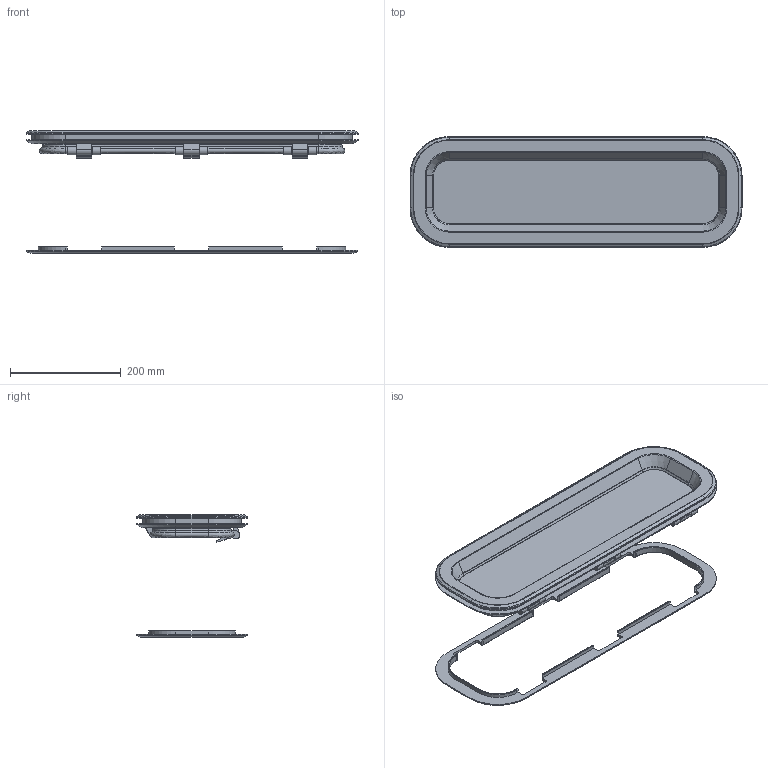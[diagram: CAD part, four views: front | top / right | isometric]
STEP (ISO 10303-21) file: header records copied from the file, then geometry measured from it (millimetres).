
FILE_DESCRIPTION((''),'2;1');
FILE_NAME('LEWMAR_PORTLIGHT_ATLANTIC_60_ASM','2008-02-29T',('skennedy'),(''),'PRO/ENGINEER BY PARAMETRIC TECHNOLOGY CORPORATION, 2007030','PRO/ENGINEER BY PARAMETRIC TECHNOLOGY CORPORATION, 2007030','');
FILE_SCHEMA(('CONFIG_CONTROL_DESIGN'));
Length unit declared in the file: millimetre
Products named in the file (7): 60_OUTER_FRAME; 60_THIN_VALANCE; 60_ACRYLIC_FRAME; ATLANTIC_PORTLIGHT_HANDLE; 60_THICK_VALANCE; 60_ACRYLIC; LEWMAR_PORTLIGHT_ATLANTIC_60_ASM
Assembly tree (8 placements, depth 2):
  LEWMAR_PORTLIGHT_ATLANTIC_60_ASM
    60_OUTER_FRAME
    60_THIN_VALANCE
    60_ACRYLIC_FRAME
    ATLANTIC_PORTLIGHT_HANDLE  x3
    60_THICK_VALANCE
    60_ACRYLIC
Bounding box: 600.13 x 200 x 221 mm (x, y, z)
Volume: 1910199.4 mm3; surface area: 568121.5 mm2
Topology: 8 solids, 8 shells, 1101 faces, 2839 edges, 1818 vertices
Faces by surface type: plane 618, cylinder 258, bspline 189, cone 36
Entity records: 36346 total; most frequent: CARTESIAN_POINT 11661, ORIENTED_EDGE 5294, DIRECTION 4715, EDGE_CURVE 2647, VECTOR 1761, LINE 1761, VERTEX_POINT 1690, AXIS2_PLACEMENT_3D 1477
